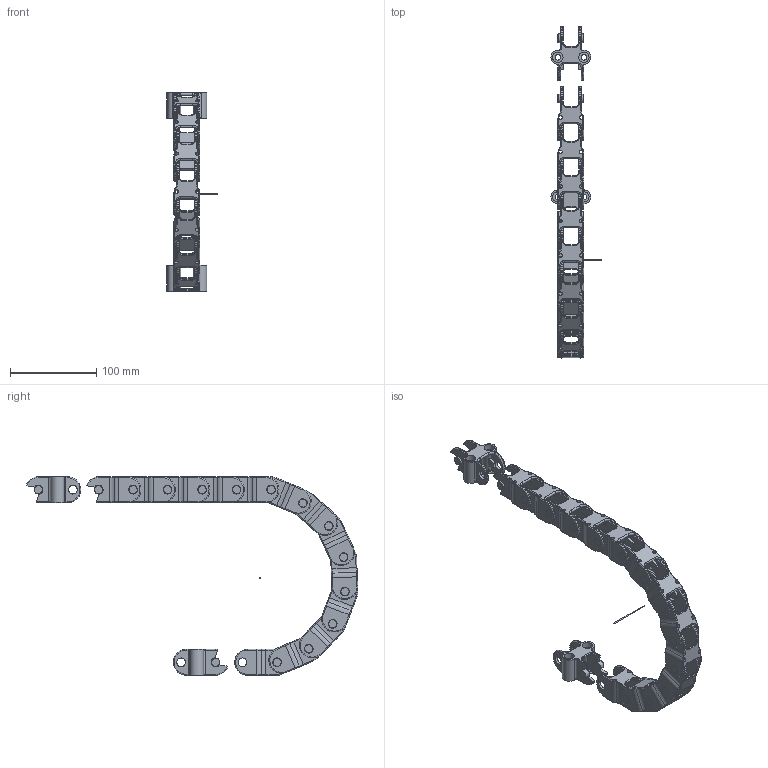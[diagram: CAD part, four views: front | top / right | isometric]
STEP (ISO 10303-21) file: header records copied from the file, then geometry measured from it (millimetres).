
FILE_DESCRIPTION((''),'2;1');
FILE_NAME('C:\Uebbing\PARAMETERKETTEN\KOLIBRI\Kol_30_030_3\KOLIBRI 30_030_3_R100.stp','2012-03-02T13:26:10',('Uebbing'),(''),'Autodesk Inventor 10','Autodesk Inventor 10','');
FILE_SCHEMA(('AUTOMOTIVE_DESIGN { 1 0 10303 214 1 1 1 1 }'));
Length unit declared in the file: millimetre
Products named in the file (4): KOLIBRI 30_030_3_PARAMETRISCH; Kol_30_030_3; Achse; Kol_30_030_3 K Anschluss
Assembly tree (16 placements, depth 2):
  KOLIBRI 30_030_3_PARAMETRISCH
    Kol_30_030_3  x13
    Achse
    Kol_30_030_3 K Anschluss  x2
Bounding box: 58.1 x 384.54 x 230 mm (x, y, z)
Volume: 198585.2 mm3; surface area: 146997.3 mm2
Topology: 16 solids, 16 shells, 1798 faces, 4941 edges, 3101 vertices
Faces by surface type: bspline 621, cylinder 460, torus 382, plane 335
Full cylindrical faces by diameter (mm): 1 x1, 6.5 x4, 9.95 x15, 10.05 x15, 12 x8
Entity records: 13793 total; most frequent: CARTESIAN_POINT 7563, ORIENTED_EDGE 1316, DIRECTION 1242, EDGE_CURVE 658, AXIS2_PLACEMENT_3D 514, VERTEX_POINT 426, CIRCLE 292, EDGE_LOOP 292
